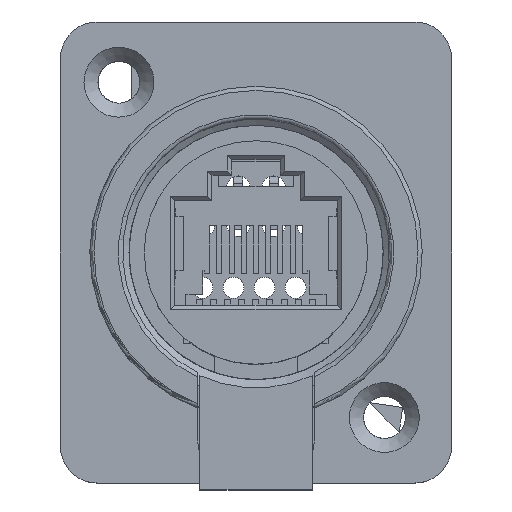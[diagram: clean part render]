
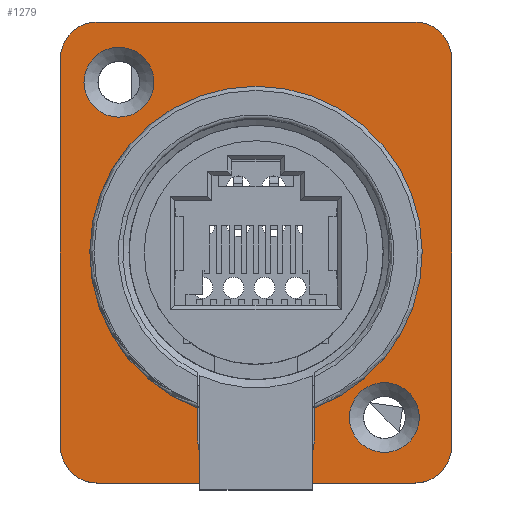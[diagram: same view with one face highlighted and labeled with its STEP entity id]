
A CAD part, top view. The second image highlights one B-rep face of the part: STEP entity #1279.
In plain terms, the highlighted planar face has unit normal (0, 0, 1).
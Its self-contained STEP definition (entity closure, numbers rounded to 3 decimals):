
#194=CIRCLE('',#11726,11.899);
#214=CIRCLE('',#11755,2.5);
#215=CIRCLE('',#11756,2.5);
#216=CIRCLE('',#11757,2.63);
#217=CIRCLE('',#11758,2.63);
#218=CIRCLE('',#11759,2.63);
#219=CIRCLE('',#11760,2.63);
#1279=ADVANCED_FACE('',(#2210,#2211,#2212,#2213),#1854,.T.);
#1854=PLANE('',#11761);
#2210=FACE_BOUND('',#2564,.T.);
#2211=FACE_BOUND('',#2565,.T.);
#2212=FACE_BOUND('',#2566,.T.);
#2213=FACE_BOUND('',#2567,.T.);
#2564=EDGE_LOOP('',(#3982));
#2565=EDGE_LOOP('',(#3983));
#2566=EDGE_LOOP('',(#3984,#3985,#3986,#3987,#3988,#3989,#3990,#3991));
#2567=EDGE_LOOP('',(#3992,#3993,#3994,#3995));
#3982=ORIENTED_EDGE('',*,*,#7830,.T.);
#3983=ORIENTED_EDGE('',*,*,#7831,.T.);
#3984=ORIENTED_EDGE('',*,*,#7832,.T.);
#3985=ORIENTED_EDGE('',*,*,#7833,.T.);
#3986=ORIENTED_EDGE('',*,*,#7834,.T.);
#3987=ORIENTED_EDGE('',*,*,#7835,.T.);
#3988=ORIENTED_EDGE('',*,*,#7836,.T.);
#3989=ORIENTED_EDGE('',*,*,#7837,.T.);
#3990=ORIENTED_EDGE('',*,*,#7838,.T.);
#3991=ORIENTED_EDGE('',*,*,#7839,.T.);
#3992=ORIENTED_EDGE('',*,*,#7790,.T.);
#3993=ORIENTED_EDGE('',*,*,#7802,.T.);
#3994=ORIENTED_EDGE('',*,*,#7780,.T.);
#3995=ORIENTED_EDGE('',*,*,#7840,.T.);
#6567=VERTEX_POINT('',#18960);
#6568=VERTEX_POINT('',#18962);
#6575=VERTEX_POINT('',#19025);
#6576=VERTEX_POINT('',#19027);
#6608=VERTEX_POINT('',#19109);
#6609=VERTEX_POINT('',#19111);
#6610=VERTEX_POINT('',#19113);
#6611=VERTEX_POINT('',#19114);
#6612=VERTEX_POINT('',#19116);
#6613=VERTEX_POINT('',#19118);
#6614=VERTEX_POINT('',#19120);
#6615=VERTEX_POINT('',#19122);
#6616=VERTEX_POINT('',#19124);
#6617=VERTEX_POINT('',#19126);
#7780=EDGE_CURVE('',#6568,#6567,#9307,.T.);
#7790=EDGE_CURVE('',#6576,#6575,#9312,.T.);
#7802=EDGE_CURVE('',#6575,#6568,#194,.T.);
#7830=EDGE_CURVE('',#6608,#6608,#214,.T.);
#7831=EDGE_CURVE('',#6609,#6609,#215,.T.);
#7832=EDGE_CURVE('',#6610,#6611,#9331,.T.);
#7833=EDGE_CURVE('',#6611,#6612,#216,.T.);
#7834=EDGE_CURVE('',#6612,#6613,#9332,.T.);
#7835=EDGE_CURVE('',#6613,#6614,#217,.T.);
#7836=EDGE_CURVE('',#6614,#6615,#9333,.T.);
#7837=EDGE_CURVE('',#6615,#6616,#218,.T.);
#7838=EDGE_CURVE('',#6616,#6617,#9334,.T.);
#7839=EDGE_CURVE('',#6617,#6610,#219,.T.);
#7840=EDGE_CURVE('',#6567,#6576,#9335,.T.);
#9307=LINE('',#18961,#10610);
#9312=LINE('',#19026,#10615);
#9331=LINE('',#19112,#10634);
#9332=LINE('',#19117,#10635);
#9333=LINE('',#19121,#10636);
#9334=LINE('',#19125,#10637);
#9335=LINE('',#19128,#10638);
#10610=VECTOR('',#12992,1.);
#10615=VECTOR('',#13005,1.);
#10634=VECTOR('',#13090,1.);
#10635=VECTOR('',#13093,1.);
#10636=VECTOR('',#13096,1.);
#10637=VECTOR('',#13099,1.);
#10638=VECTOR('',#13102,1.);
#11726=AXIS2_PLACEMENT_3D('',#19049,#13020,#13021);
#11755=AXIS2_PLACEMENT_3D('',#19108,#13086,#13087);
#11756=AXIS2_PLACEMENT_3D('',#19110,#13088,#13089);
#11757=AXIS2_PLACEMENT_3D('',#19115,#13091,#13092);
#11758=AXIS2_PLACEMENT_3D('',#19119,#13094,#13095);
#11759=AXIS2_PLACEMENT_3D('',#19123,#13097,#13098);
#11760=AXIS2_PLACEMENT_3D('',#19127,#13100,#13101);
#11761=AXIS2_PLACEMENT_3D('',#19129,#13103,#13104);
#12992=DIRECTION('',(-0.005,-1.,0.));
#13005=DIRECTION('',(-0.005,1.,0.));
#13020=DIRECTION('',(0.,0.,-1.));
#13021=DIRECTION('',(1.,0.,0.));
#13086=DIRECTION('',(0.,0.,-1.));
#13087=DIRECTION('',(-1.,0.,0.));
#13088=DIRECTION('',(0.,0.,-1.));
#13089=DIRECTION('',(-1.,0.,0.));
#13090=DIRECTION('',(0.,1.,0.));
#13091=DIRECTION('',(0.,0.,1.));
#13092=DIRECTION('',(-1.,0.,0.));
#13093=DIRECTION('',(-1.,0.,0.));
#13094=DIRECTION('',(0.,0.,1.));
#13095=DIRECTION('',(-1.,0.,0.));
#13096=DIRECTION('',(0.,-1.,0.));
#13097=DIRECTION('',(0.,0.,1.));
#13098=DIRECTION('',(-1.,0.,0.));
#13099=DIRECTION('',(1.,0.,0.));
#13100=DIRECTION('',(0.,0.,1.));
#13101=DIRECTION('',(-1.,0.,0.));
#13102=DIRECTION('',(-1.,0.,0.));
#13103=DIRECTION('',(0.,0.,1.));
#13104=DIRECTION('',(-1.,0.,0.));
#18960=CARTESIAN_POINT('',(4.15,-14.08,20.16));
#18961=CARTESIAN_POINT('',(4.218,-0.02,20.16));
#18962=CARTESIAN_POINT('',(4.164,-11.146,20.16));
#19025=CARTESIAN_POINT('',(-4.164,-11.146,20.16));
#19026=CARTESIAN_POINT('',(-4.218,-0.02,20.16));
#19027=CARTESIAN_POINT('',(-4.15,-14.08,20.16));
#19049=CARTESIAN_POINT('',(0.,0.,20.16));
#19108=CARTESIAN_POINT('',(-9.812,12.189,20.16));
#19109=CARTESIAN_POINT('',(-12.312,12.189,20.16));
#19110=CARTESIAN_POINT('',(9.188,-11.811,20.16));
#19111=CARTESIAN_POINT('',(6.688,-11.811,20.16));
#19112=CARTESIAN_POINT('',(14.005,-16.5,20.16));
#19113=CARTESIAN_POINT('',(14.005,-13.87,20.16));
#19114=CARTESIAN_POINT('',(14.005,13.87,20.16));
#19115=CARTESIAN_POINT('',(11.375,13.87,20.16));
#19116=CARTESIAN_POINT('',(11.375,16.5,20.16));
#19117=CARTESIAN_POINT('',(14.005,16.5,20.16));
#19118=CARTESIAN_POINT('',(-11.375,16.5,20.16));
#19119=CARTESIAN_POINT('',(-11.375,13.87,20.16));
#19120=CARTESIAN_POINT('',(-14.005,13.87,20.16));
#19121=CARTESIAN_POINT('',(-14.005,16.5,20.16));
#19122=CARTESIAN_POINT('',(-14.005,-13.87,20.16));
#19123=CARTESIAN_POINT('',(-11.375,-13.87,20.16));
#19124=CARTESIAN_POINT('',(-11.375,-16.5,20.16));
#19125=CARTESIAN_POINT('',(-14.005,-16.5,20.16));
#19126=CARTESIAN_POINT('',(11.375,-16.5,20.16));
#19127=CARTESIAN_POINT('',(11.375,-13.87,20.16));
#19128=CARTESIAN_POINT('',(0.,-14.08,20.16));
#19129=CARTESIAN_POINT('',(0.,0.,20.16));
